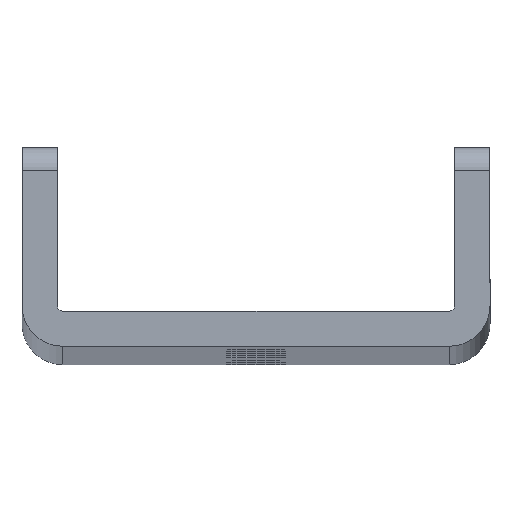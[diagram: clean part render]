
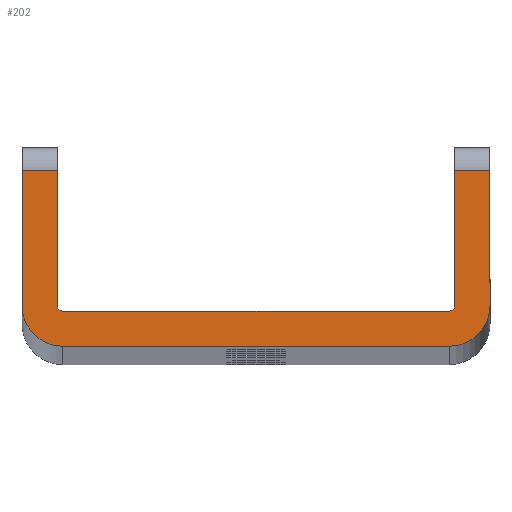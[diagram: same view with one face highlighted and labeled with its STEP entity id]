
A CAD part, top view. The second image highlights one B-rep face of the part: STEP entity #202.
In plain terms, the highlighted planar face has unit normal (0, 0, 1).
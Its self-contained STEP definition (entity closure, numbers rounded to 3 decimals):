
#47 = PLANE ( 'NONE',  #2501 ) ;
#65 = LINE ( 'NONE', #870, #1780 ) ;
#110 = CARTESIAN_POINT ( 'NONE',  ( 17., 3.5, 900. ) ) ;
#113 = DIRECTION ( 'NONE',  ( 0., 1., 0. ) ) ;
#134 = LINE ( 'NONE', #110, #2268 ) ;
#136 = CARTESIAN_POINT ( 'NONE',  ( -16.5, 3., 900. ) ) ;
#181 = ORIENTED_EDGE ( 'NONE', *, *, #3407, .T. ) ;
#202 = ADVANCED_FACE ( 'NONE', ( #1772 ), #47, .T. ) ;
#228 = ORIENTED_EDGE ( 'NONE', *, *, #1459, .T. ) ;
#254 = DIRECTION ( 'NONE',  ( 0., 0., 1. ) ) ;
#287 = CARTESIAN_POINT ( 'NONE',  ( -16.5, 0., 900. ) ) ;
#389 = CARTESIAN_POINT ( 'NONE',  ( 20., 15., 900. ) ) ;
#396 = AXIS2_PLACEMENT_3D ( 'NONE', #1887, #254, #1926 ) ;
#397 = DIRECTION ( 'NONE',  ( 0., 0., 1. ) ) ;
#517 = VECTOR ( 'NONE', #3166, 1000. ) ;
#594 = ORIENTED_EDGE ( 'NONE', *, *, #2151, .T. ) ;
#697 = EDGE_CURVE ( 'NONE', #1574, #3439, #1155, .T. ) ;
#744 = VERTEX_POINT ( 'NONE', #3060 ) ;
#762 = DIRECTION ( 'NONE',  ( 0., 1., 0. ) ) ;
#808 = ORIENTED_EDGE ( 'NONE', *, *, #2548, .T. ) ;
#816 = VERTEX_POINT ( 'NONE', #983 ) ;
#827 = VERTEX_POINT ( 'NONE', #389 ) ;
#870 = CARTESIAN_POINT ( 'NONE',  ( 20., 17., 900. ) ) ;
#937 = LINE ( 'NONE', #1554, #2083 ) ;
#947 = LINE ( 'NONE', #1570, #517 ) ;
#961 = ORIENTED_EDGE ( 'NONE', *, *, #2178, .T. ) ;
#983 = CARTESIAN_POINT ( 'NONE',  ( -17., 15., 900. ) ) ;
#989 = DIRECTION ( 'NONE',  ( 0., 0., -1. ) ) ;
#1047 = CARTESIAN_POINT ( 'NONE',  ( -16.5, 3.5, 900. ) ) ;
#1101 = DIRECTION ( 'NONE',  ( 1., 0., 0. ) ) ;
#1111 = DIRECTION ( 'NONE',  ( 0., -1., 0. ) ) ;
#1118 = CARTESIAN_POINT ( 'NONE',  ( 20., 3.5, 900. ) ) ;
#1151 = VECTOR ( 'NONE', #3036, 1000. ) ;
#1155 = CIRCLE ( 'NONE', #1624, 0.5 ) ;
#1197 = ORIENTED_EDGE ( 'NONE', *, *, #2422, .T. ) ;
#1208 = CIRCLE ( 'NONE', #2838, 3.5 ) ;
#1307 = LINE ( 'NONE', #3279, #3121 ) ;
#1316 = CARTESIAN_POINT ( 'NONE',  ( 16.5, 3., 900. ) ) ;
#1318 = ORIENTED_EDGE ( 'NONE', *, *, #1418, .T. ) ;
#1418 = EDGE_CURVE ( 'NONE', #1528, #3098, #134, .T. ) ;
#1432 = VECTOR ( 'NONE', #762, 1000. ) ;
#1459 = EDGE_CURVE ( 'NONE', #816, #1864, #937, .T. ) ;
#1495 = DIRECTION ( 'NONE',  ( 1., 0., 0. ) ) ;
#1528 = VERTEX_POINT ( 'NONE', #2901 ) ;
#1549 = LINE ( 'NONE', #1591, #1432 ) ;
#1554 = CARTESIAN_POINT ( 'NONE',  ( -20., 15., 900. ) ) ;
#1570 = CARTESIAN_POINT ( 'NONE',  ( -16.5, 3., 900. ) ) ;
#1574 = VERTEX_POINT ( 'NONE', #136 ) ;
#1591 = CARTESIAN_POINT ( 'NONE',  ( -17., 17., 900. ) ) ;
#1624 = AXIS2_PLACEMENT_3D ( 'NONE', #1047, #1858, #2969 ) ;
#1677 = AXIS2_PLACEMENT_3D ( 'NONE', #1781, #989, #2947 ) ;
#1764 = CARTESIAN_POINT ( 'NONE',  ( -20., 15., 900. ) ) ;
#1772 = FACE_OUTER_BOUND ( 'NONE', #2328, .T. ) ;
#1780 = VECTOR ( 'NONE', #113, 1000. ) ;
#1781 = CARTESIAN_POINT ( 'NONE',  ( 16.5, 3.5, 900. ) ) ;
#1809 = DIRECTION ( 'NONE',  ( -1., 0., 0. ) ) ;
#1855 = ORIENTED_EDGE ( 'NONE', *, *, #2749, .T. ) ;
#1858 = DIRECTION ( 'NONE',  ( 0., 0., -1. ) ) ;
#1864 = VERTEX_POINT ( 'NONE', #1764 ) ;
#1878 = LINE ( 'NONE', #2761, #2598 ) ;
#1887 = CARTESIAN_POINT ( 'NONE',  ( 16.5, 3.5, 900. ) ) ;
#1926 = DIRECTION ( 'NONE',  ( -1., 0., 0. ) ) ;
#1959 = CIRCLE ( 'NONE', #396, 3.5 ) ;
#2083 = VECTOR ( 'NONE', #1809, 1000. ) ;
#2151 = EDGE_CURVE ( 'NONE', #744, #2550, #1959, .T. ) ;
#2178 = EDGE_CURVE ( 'NONE', #2550, #827, #65, .T. ) ;
#2228 = CARTESIAN_POINT ( 'NONE',  ( -17., 3.5, 900. ) ) ;
#2264 = ORIENTED_EDGE ( 'NONE', *, *, #3107, .T. ) ;
#2268 = VECTOR ( 'NONE', #2319, 1000. ) ;
#2319 = DIRECTION ( 'NONE',  ( 0., -1., 0. ) ) ;
#2324 = DIRECTION ( 'NONE',  ( 0., 0., 1. ) ) ;
#2328 = EDGE_LOOP ( 'NONE', ( #961, #181, #1318, #1197, #3392, #2915, #1855, #228, #2264, #3475, #808, #594 ) ) ;
#2410 = EDGE_CURVE ( 'NONE', #2542, #1574, #947, .T. ) ;
#2422 = EDGE_CURVE ( 'NONE', #3098, #2542, #3182, .T. ) ;
#2501 = AXIS2_PLACEMENT_3D ( 'NONE', #3366, #2324, #2591 ) ;
#2542 = VERTEX_POINT ( 'NONE', #1316 ) ;
#2548 = EDGE_CURVE ( 'NONE', #3348, #744, #1878, .T. ) ;
#2550 = VERTEX_POINT ( 'NONE', #1118 ) ;
#2591 = DIRECTION ( 'NONE',  ( 1., 0., 0. ) ) ;
#2598 = VECTOR ( 'NONE', #1101, 1000. ) ;
#2749 = EDGE_CURVE ( 'NONE', #3439, #816, #1549, .T. ) ;
#2761 = CARTESIAN_POINT ( 'NONE',  ( 16.5, 0., 900. ) ) ;
#2777 = CARTESIAN_POINT ( 'NONE',  ( 17., 15., 900. ) ) ;
#2838 = AXIS2_PLACEMENT_3D ( 'NONE', #3116, #397, #1495 ) ;
#2901 = CARTESIAN_POINT ( 'NONE',  ( 17., 15., 900. ) ) ;
#2915 = ORIENTED_EDGE ( 'NONE', *, *, #697, .T. ) ;
#2947 = DIRECTION ( 'NONE',  ( 1., 0., 0. ) ) ;
#2969 = DIRECTION ( 'NONE',  ( 1., 0., 0. ) ) ;
#2996 = CARTESIAN_POINT ( 'NONE',  ( 17., 3.5, 900. ) ) ;
#3036 = DIRECTION ( 'NONE',  ( -1., 0., 0. ) ) ;
#3060 = CARTESIAN_POINT ( 'NONE',  ( 16.5, 0., 900. ) ) ;
#3098 = VERTEX_POINT ( 'NONE', #2996 ) ;
#3107 = EDGE_CURVE ( 'NONE', #1864, #3304, #1307, .T. ) ;
#3116 = CARTESIAN_POINT ( 'NONE',  ( -16.5, 3.5, 900. ) ) ;
#3121 = VECTOR ( 'NONE', #1111, 1000. ) ;
#3166 = DIRECTION ( 'NONE',  ( -1., 0., 0. ) ) ;
#3182 = CIRCLE ( 'NONE', #1677, 0.5 ) ;
#3262 = CARTESIAN_POINT ( 'NONE',  ( -20., 3.5, 900. ) ) ;
#3268 = LINE ( 'NONE', #2777, #1151 ) ;
#3279 = CARTESIAN_POINT ( 'NONE',  ( -20., 3.5, 900. ) ) ;
#3304 = VERTEX_POINT ( 'NONE', #3262 ) ;
#3348 = VERTEX_POINT ( 'NONE', #287 ) ;
#3366 = CARTESIAN_POINT ( 'NONE',  ( -16.5, 3.5, 900. ) ) ;
#3392 = ORIENTED_EDGE ( 'NONE', *, *, #2410, .T. ) ;
#3407 = EDGE_CURVE ( 'NONE', #827, #1528, #3268, .T. ) ;
#3439 = VERTEX_POINT ( 'NONE', #2228 ) ;
#3475 = ORIENTED_EDGE ( 'NONE', *, *, #3510, .T. ) ;
#3510 = EDGE_CURVE ( 'NONE', #3304, #3348, #1208, .T. ) ;
